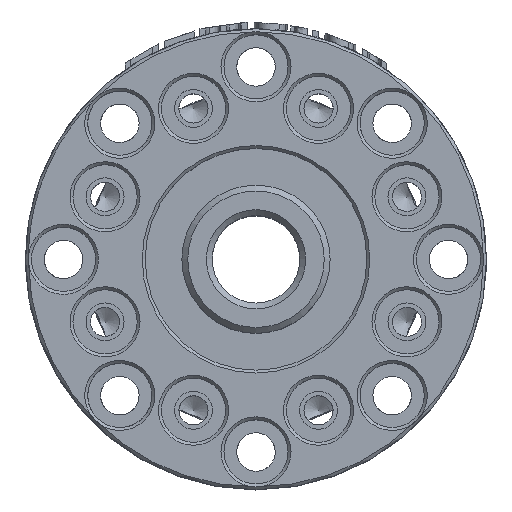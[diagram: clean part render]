
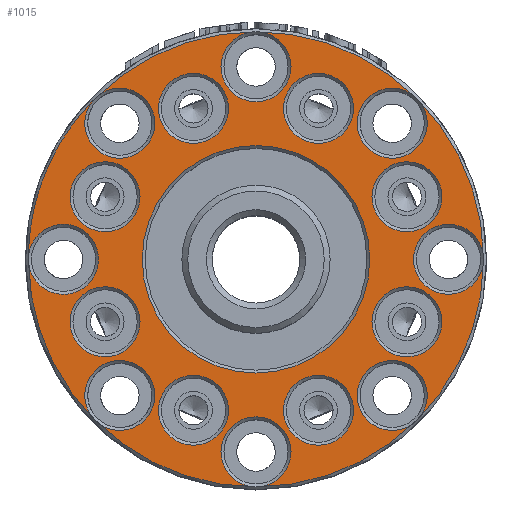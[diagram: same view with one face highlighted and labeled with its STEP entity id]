
A CAD part, top view. The second image highlights one B-rep face of the part: STEP entity #1015.
In plain terms, the highlighted planar face has unit normal (0, 0, 1).
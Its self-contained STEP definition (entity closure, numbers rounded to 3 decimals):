
#1015=ADVANCED_FACE('',(#1449,#1450,#1451,#1452,#1453,#1454,#1455,#1456,
#1457,#1458),#1240,.F.);
#1240=PLANE('',#4715);
#1449=FACE_BOUND('',#1749,.T.);
#1450=FACE_BOUND('',#1750,.T.);
#1451=FACE_BOUND('',#1751,.T.);
#1452=FACE_BOUND('',#1752,.T.);
#1453=FACE_BOUND('',#1753,.T.);
#1454=FACE_BOUND('',#1754,.T.);
#1455=FACE_BOUND('',#1755,.T.);
#1456=FACE_BOUND('',#1756,.T.);
#1457=FACE_BOUND('',#1757,.T.);
#1458=FACE_BOUND('',#1758,.T.);
#1749=EDGE_LOOP('',(#2185));
#1750=EDGE_LOOP('',(#2186));
#1751=EDGE_LOOP('',(#2187));
#1752=EDGE_LOOP('',(#2188));
#1753=EDGE_LOOP('',(#2189));
#1754=EDGE_LOOP('',(#2190));
#1755=EDGE_LOOP('',(#2191));
#1756=EDGE_LOOP('',(#2192));
#1757=EDGE_LOOP('',(#2193));
#1758=EDGE_LOOP('',(#2194,#2195,#2196,#2197,#2198,#2199,#2200,#2201,#2202,
#2203,#2204,#2205,#2206,#2207,#2208,#2209));
#2185=ORIENTED_EDGE('',*,*,#3764,.F.);
#2186=ORIENTED_EDGE('',*,*,#3766,.F.);
#2187=ORIENTED_EDGE('',*,*,#3768,.F.);
#2188=ORIENTED_EDGE('',*,*,#3770,.F.);
#2189=ORIENTED_EDGE('',*,*,#3772,.F.);
#2190=ORIENTED_EDGE('',*,*,#3774,.F.);
#2191=ORIENTED_EDGE('',*,*,#3776,.F.);
#2192=ORIENTED_EDGE('',*,*,#3778,.F.);
#2193=ORIENTED_EDGE('',*,*,#3780,.F.);
#2194=ORIENTED_EDGE('',*,*,#3743,.T.);
#2195=ORIENTED_EDGE('',*,*,#3748,.F.);
#2196=ORIENTED_EDGE('',*,*,#3742,.T.);
#2197=ORIENTED_EDGE('',*,*,#3749,.F.);
#2198=ORIENTED_EDGE('',*,*,#3741,.T.);
#2199=ORIENTED_EDGE('',*,*,#3750,.F.);
#2200=ORIENTED_EDGE('',*,*,#3740,.T.);
#2201=ORIENTED_EDGE('',*,*,#3751,.F.);
#2202=ORIENTED_EDGE('',*,*,#3739,.T.);
#2203=ORIENTED_EDGE('',*,*,#3752,.F.);
#2204=ORIENTED_EDGE('',*,*,#3746,.T.);
#2205=ORIENTED_EDGE('',*,*,#3753,.F.);
#2206=ORIENTED_EDGE('',*,*,#3745,.T.);
#2207=ORIENTED_EDGE('',*,*,#3754,.F.);
#2208=ORIENTED_EDGE('',*,*,#3744,.T.);
#2209=ORIENTED_EDGE('',*,*,#3747,.F.);
#3298=VERTEX_POINT('',#6243);
#3299=VERTEX_POINT('',#6244);
#3300=VERTEX_POINT('',#6246);
#3301=VERTEX_POINT('',#6248);
#3302=VERTEX_POINT('',#6250);
#3303=VERTEX_POINT('',#6252);
#3304=VERTEX_POINT('',#6254);
#3305=VERTEX_POINT('',#6256);
#3315=VERTEX_POINT('',#6303);
#3317=VERTEX_POINT('',#6308);
#3319=VERTEX_POINT('',#6313);
#3321=VERTEX_POINT('',#6318);
#3323=VERTEX_POINT('',#6323);
#3325=VERTEX_POINT('',#6328);
#3327=VERTEX_POINT('',#6333);
#3329=VERTEX_POINT('',#6338);
#3331=VERTEX_POINT('',#6343);
#3739=EDGE_CURVE('',#3298,#3299,#4347,.T.);
#3740=EDGE_CURVE('',#3300,#3298,#4348,.T.);
#3741=EDGE_CURVE('',#3301,#3300,#4349,.T.);
#3742=EDGE_CURVE('',#3302,#3301,#4350,.T.);
#3743=EDGE_CURVE('',#3303,#3302,#4351,.T.);
#3744=EDGE_CURVE('',#3304,#3303,#4352,.T.);
#3745=EDGE_CURVE('',#3305,#3304,#4353,.T.);
#3746=EDGE_CURVE('',#3299,#3305,#4354,.T.);
#3747=EDGE_CURVE('',#3303,#3303,#4355,.T.);
#3748=EDGE_CURVE('',#3302,#3302,#4356,.T.);
#3749=EDGE_CURVE('',#3301,#3301,#4357,.T.);
#3750=EDGE_CURVE('',#3300,#3300,#4358,.T.);
#3751=EDGE_CURVE('',#3298,#3298,#4359,.T.);
#3752=EDGE_CURVE('',#3299,#3299,#4360,.T.);
#3753=EDGE_CURVE('',#3305,#3305,#4361,.T.);
#3754=EDGE_CURVE('',#3304,#3304,#4362,.T.);
#3764=EDGE_CURVE('',#3315,#3315,#4372,.T.);
#3766=EDGE_CURVE('',#3317,#3317,#4374,.T.);
#3768=EDGE_CURVE('',#3319,#3319,#4376,.T.);
#3770=EDGE_CURVE('',#3321,#3321,#4378,.T.);
#3772=EDGE_CURVE('',#3323,#3323,#4380,.T.);
#3774=EDGE_CURVE('',#3325,#3325,#4382,.T.);
#3776=EDGE_CURVE('',#3327,#3327,#4384,.T.);
#3778=EDGE_CURVE('',#3329,#3329,#4386,.T.);
#3780=EDGE_CURVE('',#3331,#3331,#4388,.T.);
#4347=CIRCLE('',#4620,39.);
#4348=CIRCLE('',#4621,39.);
#4349=CIRCLE('',#4622,39.);
#4350=CIRCLE('',#4623,39.);
#4351=CIRCLE('',#4624,39.);
#4352=CIRCLE('',#4625,39.);
#4353=CIRCLE('',#4626,39.);
#4354=CIRCLE('',#4627,39.);
#4355=CIRCLE('',#4629,6.);
#4356=CIRCLE('',#4631,6.);
#4357=CIRCLE('',#4633,6.);
#4358=CIRCLE('',#4635,6.);
#4359=CIRCLE('',#4637,6.);
#4360=CIRCLE('',#4639,6.);
#4361=CIRCLE('',#4641,6.);
#4362=CIRCLE('',#4643,6.);
#4372=CIRCLE('',#4663,6.);
#4374=CIRCLE('',#4666,6.);
#4376=CIRCLE('',#4669,6.);
#4378=CIRCLE('',#4672,6.);
#4380=CIRCLE('',#4675,6.);
#4382=CIRCLE('',#4678,6.);
#4384=CIRCLE('',#4681,6.);
#4386=CIRCLE('',#4684,6.);
#4388=CIRCLE('',#4687,19.5);
#4620=AXIS2_PLACEMENT_3D('',#6242,#5139,#5140);
#4621=AXIS2_PLACEMENT_3D('',#6245,#5141,#5142);
#4622=AXIS2_PLACEMENT_3D('',#6247,#5143,#5144);
#4623=AXIS2_PLACEMENT_3D('',#6249,#5145,#5146);
#4624=AXIS2_PLACEMENT_3D('',#6251,#5147,#5148);
#4625=AXIS2_PLACEMENT_3D('',#6253,#5149,#5150);
#4626=AXIS2_PLACEMENT_3D('',#6255,#5151,#5152);
#4627=AXIS2_PLACEMENT_3D('',#6257,#5153,#5154);
#4629=AXIS2_PLACEMENT_3D('',#6259,#5157,#5158);
#4631=AXIS2_PLACEMENT_3D('',#6261,#5161,#5162);
#4633=AXIS2_PLACEMENT_3D('',#6263,#5165,#5166);
#4635=AXIS2_PLACEMENT_3D('',#6265,#5169,#5170);
#4637=AXIS2_PLACEMENT_3D('',#6267,#5173,#5174);
#4639=AXIS2_PLACEMENT_3D('',#6269,#5177,#5178);
#4641=AXIS2_PLACEMENT_3D('',#6271,#5181,#5182);
#4643=AXIS2_PLACEMENT_3D('',#6273,#5185,#5186);
#4663=AXIS2_PLACEMENT_3D('',#6302,#5225,#5226);
#4666=AXIS2_PLACEMENT_3D('',#6307,#5231,#5232);
#4669=AXIS2_PLACEMENT_3D('',#6312,#5237,#5238);
#4672=AXIS2_PLACEMENT_3D('',#6317,#5243,#5244);
#4675=AXIS2_PLACEMENT_3D('',#6322,#5249,#5250);
#4678=AXIS2_PLACEMENT_3D('',#6327,#5255,#5256);
#4681=AXIS2_PLACEMENT_3D('',#6332,#5261,#5262);
#4684=AXIS2_PLACEMENT_3D('',#6337,#5267,#5268);
#4687=AXIS2_PLACEMENT_3D('',#6342,#5273,#5274);
#4715=AXIS2_PLACEMENT_3D('',#6380,#5329,#5330);
#5139=DIRECTION('',(0.,0.,1.));
#5140=DIRECTION('',(-1.,0.,0.));
#5141=DIRECTION('',(0.,0.,1.));
#5142=DIRECTION('',(-1.,0.,0.));
#5143=DIRECTION('',(0.,0.,1.));
#5144=DIRECTION('',(-1.,0.,0.));
#5145=DIRECTION('',(0.,0.,1.));
#5146=DIRECTION('',(-1.,0.,0.));
#5147=DIRECTION('',(0.,0.,1.));
#5148=DIRECTION('',(-1.,0.,0.));
#5149=DIRECTION('',(0.,0.,1.));
#5150=DIRECTION('',(-1.,0.,0.));
#5151=DIRECTION('',(0.,0.,1.));
#5152=DIRECTION('',(-1.,0.,0.));
#5153=DIRECTION('',(0.,0.,1.));
#5154=DIRECTION('',(-1.,0.,0.));
#5157=DIRECTION('',(0.,0.,1.));
#5158=DIRECTION('',(1.,0.,0.));
#5161=DIRECTION('',(0.,0.,1.));
#5162=DIRECTION('',(1.,0.,0.));
#5165=DIRECTION('',(0.,0.,1.));
#5166=DIRECTION('',(1.,0.,0.));
#5169=DIRECTION('',(0.,0.,1.));
#5170=DIRECTION('',(1.,0.,0.));
#5173=DIRECTION('',(0.,0.,1.));
#5174=DIRECTION('',(1.,0.,0.));
#5177=DIRECTION('',(0.,0.,1.));
#5178=DIRECTION('',(1.,0.,0.));
#5181=DIRECTION('',(0.,0.,1.));
#5182=DIRECTION('',(1.,0.,0.));
#5185=DIRECTION('',(0.,0.,1.));
#5186=DIRECTION('',(1.,0.,0.));
#5225=DIRECTION('',(0.,0.,1.));
#5226=DIRECTION('',(1.,0.,0.));
#5231=DIRECTION('',(0.,0.,1.));
#5232=DIRECTION('',(1.,0.,0.));
#5237=DIRECTION('',(0.,0.,1.));
#5238=DIRECTION('',(1.,0.,0.));
#5243=DIRECTION('',(0.,0.,1.));
#5244=DIRECTION('',(1.,0.,0.));
#5249=DIRECTION('',(0.,0.,1.));
#5250=DIRECTION('',(1.,0.,0.));
#5255=DIRECTION('',(0.,0.,1.));
#5256=DIRECTION('',(1.,0.,0.));
#5261=DIRECTION('',(0.,0.,1.));
#5262=DIRECTION('',(1.,0.,0.));
#5267=DIRECTION('',(0.,0.,1.));
#5268=DIRECTION('',(1.,0.,0.));
#5273=DIRECTION('',(0.,0.,1.));
#5274=DIRECTION('',(1.,0.,0.));
#5329=DIRECTION('',(0.,0.,-1.));
#5330=DIRECTION('',(1.,0.,0.));
#6242=CARTESIAN_POINT('',(0.,0.,9.));
#6243=CARTESIAN_POINT('',(-39.,0.,9.));
#6244=CARTESIAN_POINT('',(-27.577,-27.577,9.));
#6245=CARTESIAN_POINT('',(0.,0.,9.));
#6246=CARTESIAN_POINT('',(-27.577,27.577,9.));
#6247=CARTESIAN_POINT('',(0.,0.,9.));
#6248=CARTESIAN_POINT('',(0.,39.,9.));
#6249=CARTESIAN_POINT('',(0.,0.,9.));
#6250=CARTESIAN_POINT('',(27.577,27.577,9.));
#6251=CARTESIAN_POINT('',(0.,0.,9.));
#6252=CARTESIAN_POINT('',(39.,0.,9.));
#6253=CARTESIAN_POINT('',(0.,0.,9.));
#6254=CARTESIAN_POINT('',(27.577,-27.577,9.));
#6255=CARTESIAN_POINT('',(0.,0.,9.));
#6256=CARTESIAN_POINT('',(0.,-39.,9.));
#6257=CARTESIAN_POINT('',(0.,0.,9.));
#6259=CARTESIAN_POINT('',(33.,0.,9.));
#6261=CARTESIAN_POINT('',(23.335,23.335,9.));
#6263=CARTESIAN_POINT('',(0.,33.,9.));
#6265=CARTESIAN_POINT('',(-23.335,23.335,9.));
#6267=CARTESIAN_POINT('',(-33.,0.,9.));
#6269=CARTESIAN_POINT('',(-23.335,-23.335,9.));
#6271=CARTESIAN_POINT('',(0.,-33.,9.));
#6273=CARTESIAN_POINT('',(23.335,-23.335,9.));
#6302=CARTESIAN_POINT('',(-10.715,25.869,9.));
#6303=CARTESIAN_POINT('',(-4.715,25.869,9.));
#6307=CARTESIAN_POINT('',(-25.869,10.715,9.));
#6308=CARTESIAN_POINT('',(-19.869,10.715,9.));
#6312=CARTESIAN_POINT('',(-25.869,-10.715,9.));
#6313=CARTESIAN_POINT('',(-19.869,-10.715,9.));
#6317=CARTESIAN_POINT('',(-10.715,-25.869,9.));
#6318=CARTESIAN_POINT('',(-4.715,-25.869,9.));
#6322=CARTESIAN_POINT('',(10.715,-25.869,9.));
#6323=CARTESIAN_POINT('',(16.715,-25.869,9.));
#6327=CARTESIAN_POINT('',(25.869,-10.715,9.));
#6328=CARTESIAN_POINT('',(31.869,-10.715,9.));
#6332=CARTESIAN_POINT('',(25.869,10.715,9.));
#6333=CARTESIAN_POINT('',(31.869,10.715,9.));
#6337=CARTESIAN_POINT('',(10.715,25.869,9.));
#6338=CARTESIAN_POINT('',(16.715,25.869,9.));
#6342=CARTESIAN_POINT('',(0.,0.,9.));
#6343=CARTESIAN_POINT('',(19.5,0.,9.));
#6380=CARTESIAN_POINT('',(39.468,-39.468,9.));
